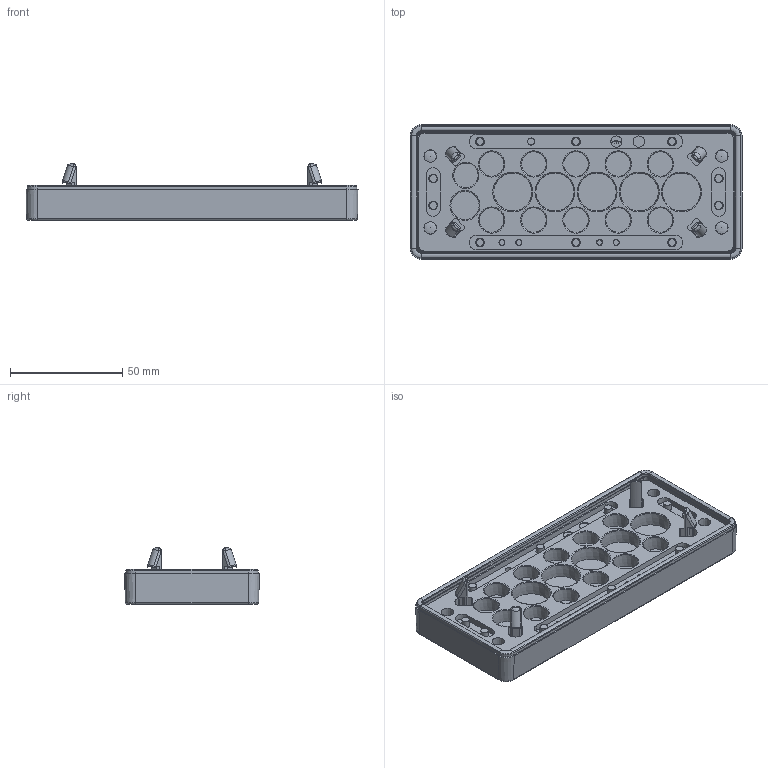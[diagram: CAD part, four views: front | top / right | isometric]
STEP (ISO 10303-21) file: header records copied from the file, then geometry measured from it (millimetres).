
FILE_DESCRIPTION(/* description */ (''),/* implementation_level */ '2;1');
FILE_NAME(/* name */ 'C:\SapWorkDir\Inventor\MP1\ConvertTempPath\87_16_121489_00_A_220620_KDP-X 24-17-1 ZSB - Blech 1,5-2,0.stp',/* time_stamp */ '2022-06-21T09:32:17+02:00',/* author */ ('BAUER'),/* organization */ (''),/* preprocessor_version */ 'ST-DEVELOPER v16.13',/* originating_system */ 'Autodesk Inventor 2018',/* authorisation */ '');
FILE_SCHEMA (('AUTOMOTIVE_DESIGN { 1 0 10303 214 3 1 1 }'));
Products named in the file (5): 121489; 121385; 105478_MPS_3F1; 105476_MPS_3F1; 104104_MPS_3F1
Assembly tree (4 placements, depth 2):
  121489
    121385
    105478_MPS_3F1
    105476_MPS_3F1
    104104_MPS_3F1
Bounding box: 148 x 60 x 25 mm (x, y, z)
Volume: 74150.3 mm3; surface area: 71663.9 mm2
Topology: 4 solids, 4 shells, 3282 faces, 8375 edges, 5034 vertices
Faces by surface type: plane 1363, bspline 633, cylinder 493, cone 354, torus 298, sphere 141
Full cylindrical faces by diameter (mm): 2.5 x4, 2.6 x4, 3 x1, 3.1 x1, 3.6 x10, 5 x2, 5.5 x8, 6.5 x4, 7.5 x4
Entity records: 108562 total; most frequent: CARTESIAN_POINT 32379, ORIENTED_EDGE 15938, DIRECTION 15187, EDGE_CURVE 7969, AXIS2_PLACEMENT_3D 5323, VERTEX_POINT 5024, LINE 4541, VECTOR 4541
